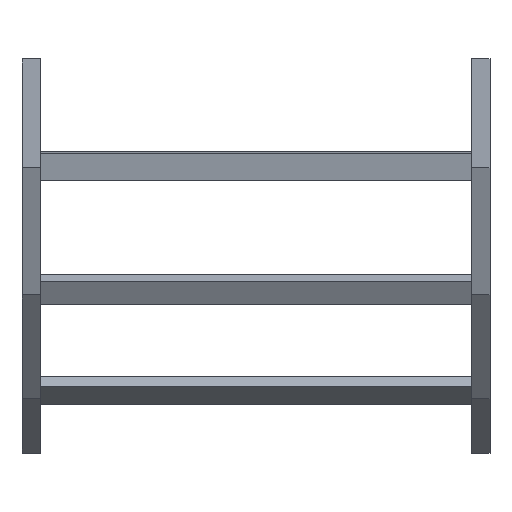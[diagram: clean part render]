
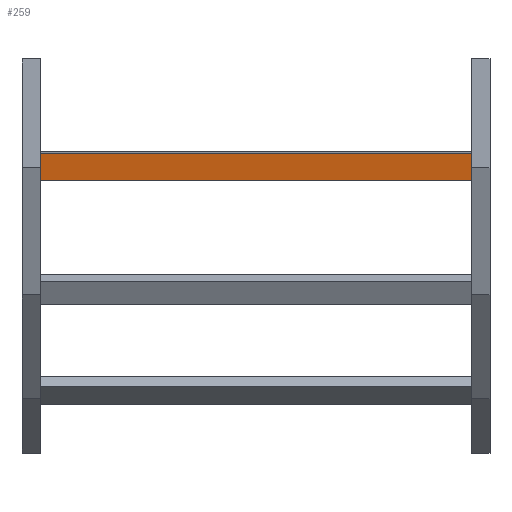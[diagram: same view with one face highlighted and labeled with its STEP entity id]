
A CAD part, front view. The second image highlights one B-rep face of the part: STEP entity #259.
In plain terms, the highlighted planar face has unit normal (0, -0.985, -0.174) as drawn and (0, -1, 0) by its records, which use the part's own axes.
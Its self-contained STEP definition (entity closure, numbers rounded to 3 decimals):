
#8 = AXIS2_PLACEMENT_3D ( 'NONE', #1539, #1339, #332 ) ;
#26 = CARTESIAN_POINT ( 'NONE',  ( -348., 0., 20.25 ) ) ;
#35 = VECTOR ( 'NONE', #751, 1000. ) ;
#83 = LINE ( 'NONE', #500, #35 ) ;
#120 = VERTEX_POINT ( 'NONE', #1317 ) ;
#259 = ADVANCED_FACE ( 'NONE', ( #1529 ), #345, .F. ) ;
#293 = DIRECTION ( 'NONE',  ( 0., 0., -1. ) ) ;
#298 = VECTOR ( 'NONE', #623, 1000. ) ;
#311 = ORIENTED_EDGE ( 'NONE', *, *, #1437, .T. ) ;
#332 = DIRECTION ( 'NONE',  ( 0., 0., 1. ) ) ;
#345 = PLANE ( 'NONE',  #8 ) ;
#356 = CARTESIAN_POINT ( 'NONE',  ( 348., 0., 20.25 ) ) ;
#358 = ORIENTED_EDGE ( 'NONE', *, *, #684, .T. ) ;
#429 = VERTEX_POINT ( 'NONE', #795 ) ;
#500 = CARTESIAN_POINT ( 'NONE',  ( 348., 0., 20.25 ) ) ;
#508 = LINE ( 'NONE', #356, #298 ) ;
#623 = DIRECTION ( 'NONE',  ( 0., 0., -1. ) ) ;
#640 = ORIENTED_EDGE ( 'NONE', *, *, #661, .F. ) ;
#661 = EDGE_CURVE ( 'NONE', #429, #120, #508, .T. ) ;
#678 = EDGE_LOOP ( 'NONE', ( #311, #1688, #640, #358 ) ) ;
#684 = EDGE_CURVE ( 'NONE', #429, #1009, #83, .T. ) ;
#751 = DIRECTION ( 'NONE',  ( -1., 0., 0. ) ) ;
#795 = CARTESIAN_POINT ( 'NONE',  ( 348., 0., 20.25 ) ) ;
#828 = LINE ( 'NONE', #971, #1241 ) ;
#867 = DIRECTION ( 'NONE',  ( -1., 0., 0. ) ) ;
#971 = CARTESIAN_POINT ( 'NONE',  ( -348., 0., 20.25 ) ) ;
#1009 = VERTEX_POINT ( 'NONE', #26 ) ;
#1077 = VECTOR ( 'NONE', #867, 1000. ) ;
#1241 = VECTOR ( 'NONE', #293, 1000. ) ;
#1268 = CARTESIAN_POINT ( 'NONE',  ( 348., 0., -20.25 ) ) ;
#1280 = VERTEX_POINT ( 'NONE', #1511 ) ;
#1317 = CARTESIAN_POINT ( 'NONE',  ( 348., 0., -20.25 ) ) ;
#1339 = DIRECTION ( 'NONE',  ( 0., 1., 0. ) ) ;
#1437 = EDGE_CURVE ( 'NONE', #1009, #1280, #828, .T. ) ;
#1484 = LINE ( 'NONE', #1268, #1077 ) ;
#1511 = CARTESIAN_POINT ( 'NONE',  ( -348., 0., -20.25 ) ) ;
#1512 = EDGE_CURVE ( 'NONE', #120, #1280, #1484, .T. ) ;
#1529 = FACE_OUTER_BOUND ( 'NONE', #678, .T. ) ;
#1539 = CARTESIAN_POINT ( 'NONE',  ( 348., 0., 20.25 ) ) ;
#1688 = ORIENTED_EDGE ( 'NONE', *, *, #1512, .F. ) ;
